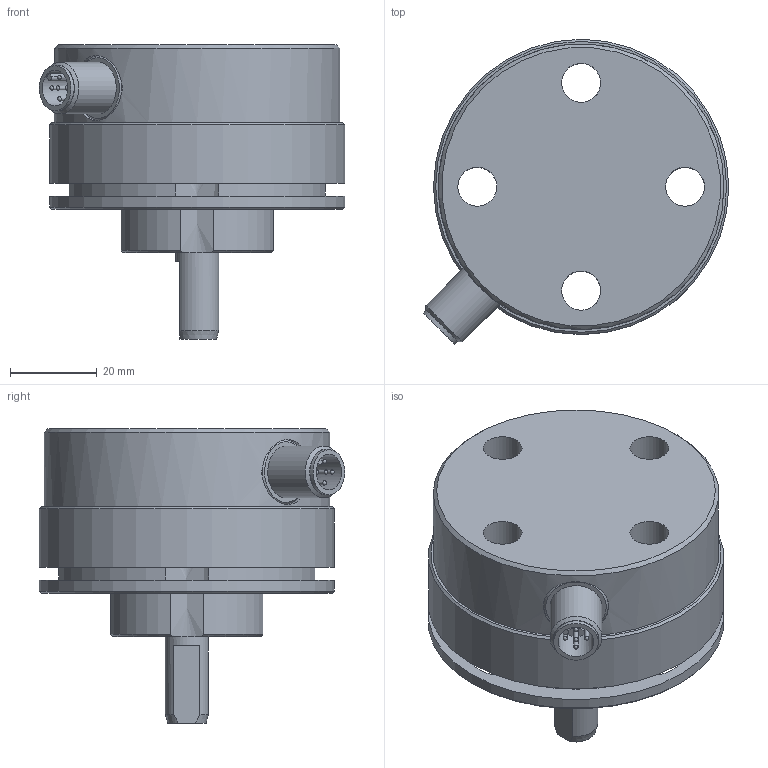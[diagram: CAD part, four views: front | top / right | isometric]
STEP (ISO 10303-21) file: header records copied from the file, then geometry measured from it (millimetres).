
FILE_DESCRIPTION((''),'2;1');
FILE_NAME('K:\Daten\Pras5V-M12R.stp','2010-02-09T16:37:51',('kamp'),(''),'Autodesk Inventor 2008','Autodesk Inventor 2008','');
FILE_SCHEMA(('AUTOMOTIVE_DESIGN { 1 0 10303 214 1 1 1 1 }'));
Length unit declared in the file: millimetre
Products named in the file (1): Bauteil24
Bounding box: 70.57 x 70.57 x 68 mm (x, y, z)
Volume: 128735 mm3; surface area: 24437.6 mm2
Topology: 1 solids, 1 shells, 104 faces, 280 edges, 182 vertices
Faces by surface type: plane 31, cylinder 29, bspline 25, cone 12, sphere 5, torus 2
Full cylindrical faces by diameter (mm): 1 x5, 8.3 x1, 10 x1, 10.4 x1, 12 x1, 14 x1, 15 x1, 20 x1, 21 x1, 66 x1, 68.2 x2
Entity records: 3367 total; most frequent: CARTESIAN_POINT 945, DIRECTION 492, ORIENTED_EDGE 420, AXIS2_PLACEMENT_3D 214, EDGE_CURVE 210, EDGE_LOOP 175, VERTEX_POINT 163, CIRCLE 134
